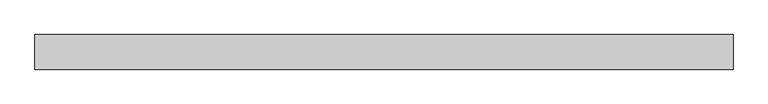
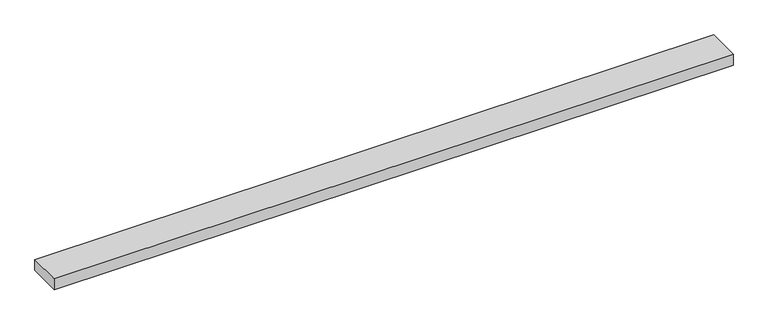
"""IFC4 building model written with IfcOpenShell, lengths in millimetres: proxy geometry, Vita_Решетка : РАП_Алюминиевая продольная."""

from ifc_helpers import new_model, si_unit, frame, origin, place, context, project, spatial, polyline, outline, extrude, source, transform, mapped, element, save


def mechanical_equipment_164f5ea8(model_context):
    return source(origin(), model_context, "Body", "SweptSolid", [
        extrude(outline(polyline([(-599.0, -112.8), (599.0, -112.8), (599.0, -172.2), (-599.0, -172.2), (-599.0, -112.8)])), frame((0.0, 0.0, 329.83), z_axis=(0.0, 0.0, 1.0), x_axis=(1.0, 0.0, 0.0)), (0.0, 0.0, 1.0), 20.17),
    ])


if __name__ == "__main__":
    model = new_model("IFC4")
    model_context = context("Model", 3, world=origin())
    ifc_project = project(units=[si_unit("LENGTHUNIT", "METRE", prefix="MILLI")], contexts=[model_context])
    site = spatial("IfcSite", under=ifc_project)
    building = spatial("IfcBuilding", under=site)
    placement = place(None, origin())
    mechanical_equipment_shape = mechanical_equipment_164f5ea8(model_context)
    element("IfcBuildingElementProxy", 1, Name="Vita_Решетка : РАП_Алюминиевая продольная", ObjectType="Vita_Решетка : РАП_Алюминиевая продольная", at=placement, inside=building, context=model_context, shape_type="MappedRepresentation", body=[
        mapped(mechanical_equipment_shape, transform((0.0, 0.0, 0.0), x_axis=(1.0, 0.0, 0.0), y_axis=(0.0, 1.0, 0.0), z_axis=(0.0, 0.0, 1.0))),
    ])
    save(model, "model.ifc")
